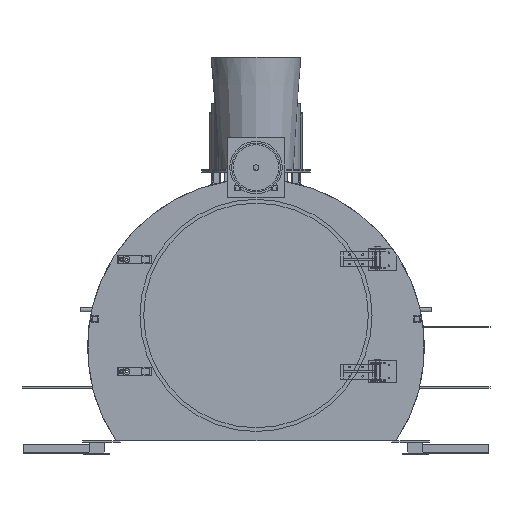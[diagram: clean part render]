
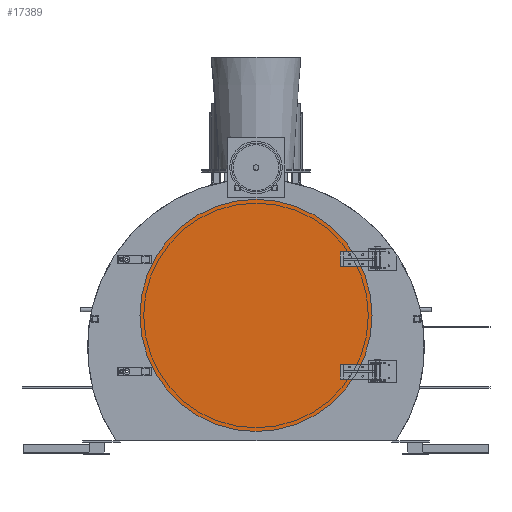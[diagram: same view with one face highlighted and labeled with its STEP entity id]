
A CAD part, left-side view. The second image highlights one B-rep face of the part: STEP entity #17389.
In plain terms, the highlighted planar face has unit normal (-1, 0, 0).
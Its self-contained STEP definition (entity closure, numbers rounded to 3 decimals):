
#17187 = CYLINDRICAL_SURFACE('',#17188,620.);
#17188 = AXIS2_PLACEMENT_3D('',#17189,#17190,#17191);
#17189 = CARTESIAN_POINT('',(783.,0.,2520.));
#17190 = DIRECTION('',(1.,0.,0.));
#17191 = DIRECTION('',(-0.,0.,1.));
#17212 = VERTEX_POINT('',#17213);
#17213 = CARTESIAN_POINT('',(783.,0.,3140.));
#17234 = EDGE_CURVE('',#17212,#17212,#17235,.T.);
#17235 = SURFACE_CURVE('',#17236,(#17241,#17248),.PCURVE_S1.);
#17236 = CIRCLE('',#17237,620.);
#17237 = AXIS2_PLACEMENT_3D('',#17238,#17239,#17240);
#17238 = CARTESIAN_POINT('',(783.,0.,2520.));
#17239 = DIRECTION('',(1.,0.,0.));
#17240 = DIRECTION('',(-0.,0.,1.));
#17241 = PCURVE('',#17187,#17242);
#17242 = DEFINITIONAL_REPRESENTATION('',(#17243),#17247);
#17243 = LINE('',#17244,#17245);
#17244 = CARTESIAN_POINT('',(0.,0.));
#17245 = VECTOR('',#17246,1.);
#17246 = DIRECTION('',(1.,0.));
#17247 = ( GEOMETRIC_REPRESENTATION_CONTEXT(2) 
PARAMETRIC_REPRESENTATION_CONTEXT() REPRESENTATION_CONTEXT('2D SPACE',''
  ) );
#17248 = PCURVE('',#17249,#17254);
#17249 = PLANE('',#17250);
#17250 = AXIS2_PLACEMENT_3D('',#17251,#17252,#17253);
#17251 = CARTESIAN_POINT('',(783.,0.,2520.));
#17252 = DIRECTION('',(1.,0.,0.));
#17253 = DIRECTION('',(-0.,0.,1.));
#17254 = DEFINITIONAL_REPRESENTATION('',(#17255),#17259);
#17255 = CIRCLE('',#17256,620.);
#17256 = AXIS2_PLACEMENT_2D('',#17257,#17258);
#17257 = CARTESIAN_POINT('',(0.,0.));
#17258 = DIRECTION('',(1.,0.));
#17259 = ( GEOMETRIC_REPRESENTATION_CONTEXT(2) 
PARAMETRIC_REPRESENTATION_CONTEXT() REPRESENTATION_CONTEXT('2D SPACE',''
  ) );
#17285 = CYLINDRICAL_SURFACE('',#17286,4.5);
#17286 = AXIS2_PLACEMENT_3D('',#17287,#17288,#17289);
#17287 = CARTESIAN_POINT('',(775.,-500.,2195.));
#17288 = DIRECTION('',(1.,0.,0.));
#17289 = DIRECTION('',(-0.,0.,1.));
#17316 = CYLINDRICAL_SURFACE('',#17317,4.5);
#17317 = AXIS2_PLACEMENT_3D('',#17318,#17319,#17320);
#17318 = CARTESIAN_POINT('',(775.,-500.,2245.));
#17319 = DIRECTION('',(1.,0.,0.));
#17320 = DIRECTION('',(-0.,0.,1.));
#17347 = CYLINDRICAL_SURFACE('',#17348,4.5);
#17348 = AXIS2_PLACEMENT_3D('',#17349,#17350,#17351);
#17349 = CARTESIAN_POINT('',(775.,-500.,2795.));
#17350 = DIRECTION('',(1.,0.,0.));
#17351 = DIRECTION('',(-0.,0.,1.));
#17378 = CYLINDRICAL_SURFACE('',#17379,4.5);
#17379 = AXIS2_PLACEMENT_3D('',#17380,#17381,#17382);
#17380 = CARTESIAN_POINT('',(775.,-500.,2845.));
#17381 = DIRECTION('',(1.,0.,0.));
#17382 = DIRECTION('',(-0.,0.,1.));
#17389 = ADVANCED_FACE('',(#17390,#17393,#17419,#17445,#17471),#17249,
  .F.);
#17390 = FACE_BOUND('',#17391,.F.);
#17391 = EDGE_LOOP('',(#17392));
#17392 = ORIENTED_EDGE('',*,*,#17234,.T.);
#17393 = FACE_BOUND('',#17394,.F.);
#17394 = EDGE_LOOP('',(#17395));
#17395 = ORIENTED_EDGE('',*,*,#17396,.F.);
#17396 = EDGE_CURVE('',#17397,#17397,#17399,.T.);
#17397 = VERTEX_POINT('',#17398);
#17398 = CARTESIAN_POINT('',(783.,-500.,2199.5));
#17399 = SURFACE_CURVE('',#17400,(#17405,#17412),.PCURVE_S1.);
#17400 = CIRCLE('',#17401,4.5);
#17401 = AXIS2_PLACEMENT_3D('',#17402,#17403,#17404);
#17402 = CARTESIAN_POINT('',(783.,-500.,2195.));
#17403 = DIRECTION('',(1.,0.,0.));
#17404 = DIRECTION('',(-0.,0.,1.));
#17405 = PCURVE('',#17249,#17406);
#17406 = DEFINITIONAL_REPRESENTATION('',(#17407),#17411);
#17407 = CIRCLE('',#17408,4.5);
#17408 = AXIS2_PLACEMENT_2D('',#17409,#17410);
#17409 = CARTESIAN_POINT('',(-325.,500.));
#17410 = DIRECTION('',(1.,0.));
#17411 = ( GEOMETRIC_REPRESENTATION_CONTEXT(2) 
PARAMETRIC_REPRESENTATION_CONTEXT() REPRESENTATION_CONTEXT('2D SPACE',''
  ) );
#17412 = PCURVE('',#17285,#17413);
#17413 = DEFINITIONAL_REPRESENTATION('',(#17414),#17418);
#17414 = LINE('',#17415,#17416);
#17415 = CARTESIAN_POINT('',(0.,8.));
#17416 = VECTOR('',#17417,1.);
#17417 = DIRECTION('',(1.,0.));
#17418 = ( GEOMETRIC_REPRESENTATION_CONTEXT(2) 
PARAMETRIC_REPRESENTATION_CONTEXT() REPRESENTATION_CONTEXT('2D SPACE',''
  ) );
#17419 = FACE_BOUND('',#17420,.F.);
#17420 = EDGE_LOOP('',(#17421));
#17421 = ORIENTED_EDGE('',*,*,#17422,.F.);
#17422 = EDGE_CURVE('',#17423,#17423,#17425,.T.);
#17423 = VERTEX_POINT('',#17424);
#17424 = CARTESIAN_POINT('',(783.,-500.,2249.5));
#17425 = SURFACE_CURVE('',#17426,(#17431,#17438),.PCURVE_S1.);
#17426 = CIRCLE('',#17427,4.5);
#17427 = AXIS2_PLACEMENT_3D('',#17428,#17429,#17430);
#17428 = CARTESIAN_POINT('',(783.,-500.,2245.));
#17429 = DIRECTION('',(1.,0.,0.));
#17430 = DIRECTION('',(-0.,0.,1.));
#17431 = PCURVE('',#17249,#17432);
#17432 = DEFINITIONAL_REPRESENTATION('',(#17433),#17437);
#17433 = CIRCLE('',#17434,4.5);
#17434 = AXIS2_PLACEMENT_2D('',#17435,#17436);
#17435 = CARTESIAN_POINT('',(-275.,500.));
#17436 = DIRECTION('',(1.,0.));
#17437 = ( GEOMETRIC_REPRESENTATION_CONTEXT(2) 
PARAMETRIC_REPRESENTATION_CONTEXT() REPRESENTATION_CONTEXT('2D SPACE',''
  ) );
#17438 = PCURVE('',#17316,#17439);
#17439 = DEFINITIONAL_REPRESENTATION('',(#17440),#17444);
#17440 = LINE('',#17441,#17442);
#17441 = CARTESIAN_POINT('',(0.,8.));
#17442 = VECTOR('',#17443,1.);
#17443 = DIRECTION('',(1.,0.));
#17444 = ( GEOMETRIC_REPRESENTATION_CONTEXT(2) 
PARAMETRIC_REPRESENTATION_CONTEXT() REPRESENTATION_CONTEXT('2D SPACE',''
  ) );
#17445 = FACE_BOUND('',#17446,.F.);
#17446 = EDGE_LOOP('',(#17447));
#17447 = ORIENTED_EDGE('',*,*,#17448,.F.);
#17448 = EDGE_CURVE('',#17449,#17449,#17451,.T.);
#17449 = VERTEX_POINT('',#17450);
#17450 = CARTESIAN_POINT('',(783.,-500.,2799.5));
#17451 = SURFACE_CURVE('',#17452,(#17457,#17464),.PCURVE_S1.);
#17452 = CIRCLE('',#17453,4.5);
#17453 = AXIS2_PLACEMENT_3D('',#17454,#17455,#17456);
#17454 = CARTESIAN_POINT('',(783.,-500.,2795.));
#17455 = DIRECTION('',(1.,0.,0.));
#17456 = DIRECTION('',(-0.,0.,1.));
#17457 = PCURVE('',#17249,#17458);
#17458 = DEFINITIONAL_REPRESENTATION('',(#17459),#17463);
#17459 = CIRCLE('',#17460,4.5);
#17460 = AXIS2_PLACEMENT_2D('',#17461,#17462);
#17461 = CARTESIAN_POINT('',(275.,500.));
#17462 = DIRECTION('',(1.,0.));
#17463 = ( GEOMETRIC_REPRESENTATION_CONTEXT(2) 
PARAMETRIC_REPRESENTATION_CONTEXT() REPRESENTATION_CONTEXT('2D SPACE',''
  ) );
#17464 = PCURVE('',#17347,#17465);
#17465 = DEFINITIONAL_REPRESENTATION('',(#17466),#17470);
#17466 = LINE('',#17467,#17468);
#17467 = CARTESIAN_POINT('',(0.,8.));
#17468 = VECTOR('',#17469,1.);
#17469 = DIRECTION('',(1.,0.));
#17470 = ( GEOMETRIC_REPRESENTATION_CONTEXT(2) 
PARAMETRIC_REPRESENTATION_CONTEXT() REPRESENTATION_CONTEXT('2D SPACE',''
  ) );
#17471 = FACE_BOUND('',#17472,.F.);
#17472 = EDGE_LOOP('',(#17473));
#17473 = ORIENTED_EDGE('',*,*,#17474,.F.);
#17474 = EDGE_CURVE('',#17475,#17475,#17477,.T.);
#17475 = VERTEX_POINT('',#17476);
#17476 = CARTESIAN_POINT('',(783.,-500.,2849.5));
#17477 = SURFACE_CURVE('',#17478,(#17483,#17490),.PCURVE_S1.);
#17478 = CIRCLE('',#17479,4.5);
#17479 = AXIS2_PLACEMENT_3D('',#17480,#17481,#17482);
#17480 = CARTESIAN_POINT('',(783.,-500.,2845.));
#17481 = DIRECTION('',(1.,0.,0.));
#17482 = DIRECTION('',(-0.,0.,1.));
#17483 = PCURVE('',#17249,#17484);
#17484 = DEFINITIONAL_REPRESENTATION('',(#17485),#17489);
#17485 = CIRCLE('',#17486,4.5);
#17486 = AXIS2_PLACEMENT_2D('',#17487,#17488);
#17487 = CARTESIAN_POINT('',(325.,500.));
#17488 = DIRECTION('',(1.,0.));
#17489 = ( GEOMETRIC_REPRESENTATION_CONTEXT(2) 
PARAMETRIC_REPRESENTATION_CONTEXT() REPRESENTATION_CONTEXT('2D SPACE',''
  ) );
#17490 = PCURVE('',#17378,#17491);
#17491 = DEFINITIONAL_REPRESENTATION('',(#17492),#17496);
#17492 = LINE('',#17493,#17494);
#17493 = CARTESIAN_POINT('',(0.,8.));
#17494 = VECTOR('',#17495,1.);
#17495 = DIRECTION('',(1.,0.));
#17496 = ( GEOMETRIC_REPRESENTATION_CONTEXT(2) 
PARAMETRIC_REPRESENTATION_CONTEXT() REPRESENTATION_CONTEXT('2D SPACE',''
  ) );
